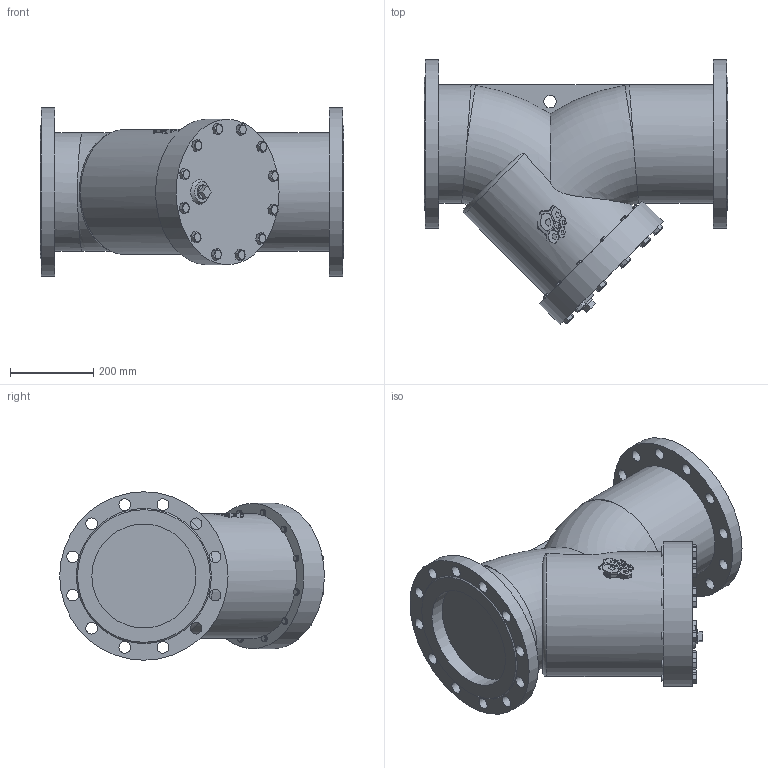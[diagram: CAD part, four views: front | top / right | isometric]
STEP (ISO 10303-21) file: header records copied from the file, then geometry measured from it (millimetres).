
FILE_DESCRIPTION(('STEP AP203'), '1');
FILE_NAME('3D_600_601-250-16_1,6', '', ('UNSPECIFIED'), ('UNSPECIFIED'), 'C3D Converter', 'C3D Toolkit', '');
FILE_SCHEMA(('CONFIG_CONTROL_DESIGN'));
Length unit declared in the file: millimetre
Bounding box: 730 x 636.5 x 405 mm (x, y, z)
Volume: 65279965.9 mm3; surface area: 1480440.3 mm2
Topology: 1 solids, 1 shells, 1028 faces, 2990 edges, 1999 vertices
Faces by surface type: plane 940, cylinder 56, cone 27, torus 5
Full cylindrical faces by diameter (mm): 28 x24, 30 x1, 34 x1, 250 x2, 300 x1, 350 x1, 405 x2
Entity records: 46264 total; most frequent: CARTESIAN_POINT 13183, ORIENTED_EDGE 5886, DIRECTION 4265, EDGE_CURVE 2943, VERTEX_POINT 1999, LINE 1835, VECTOR 1835, AXIS2_PLACEMENT_3D 1215
